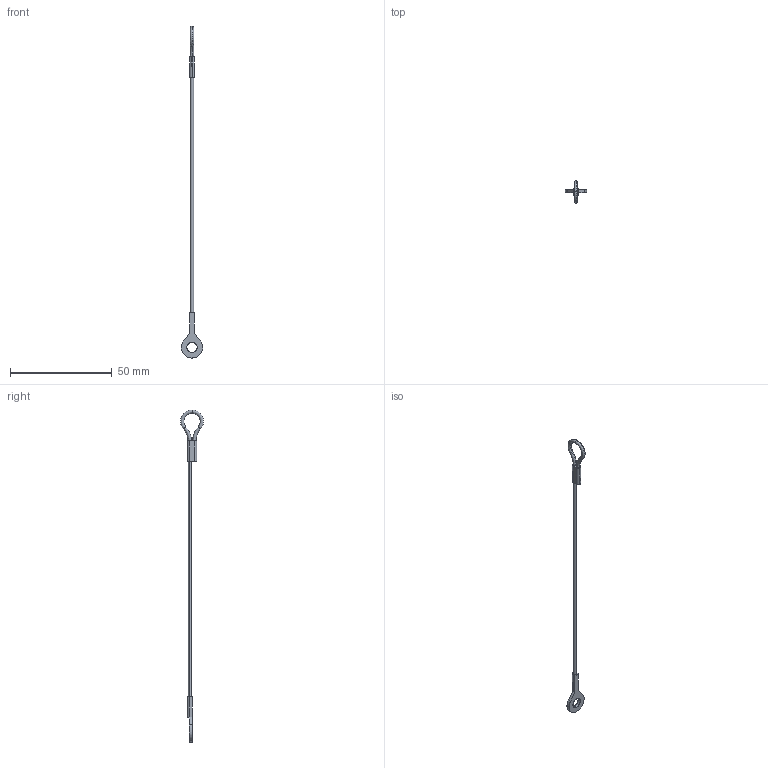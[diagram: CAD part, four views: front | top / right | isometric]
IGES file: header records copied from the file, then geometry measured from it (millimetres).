
Start section: SolidWorks IGES file using analytic representation for surfaces
Global section: file name: C:\Users\ianosborn\Desktop\LA1075_v2\LA1075_v2_20260320_IGES\LA1075.I06-152N1.igs; native system: SolidWorks 2019; preprocessor: SolidWorks 2019; author: IanOsborn; date: 260323.164358; units: millimetre
Bounding box: 10.41 x 11.16 x 163.2 mm (x, y, z)
Surface area: 1204.2 mm2 (no closed solid volume)
Topology: 0 solids, 0 shells, 32 faces, 404 edges, 404 vertices
Faces by surface type: bspline 22, revolution 10
